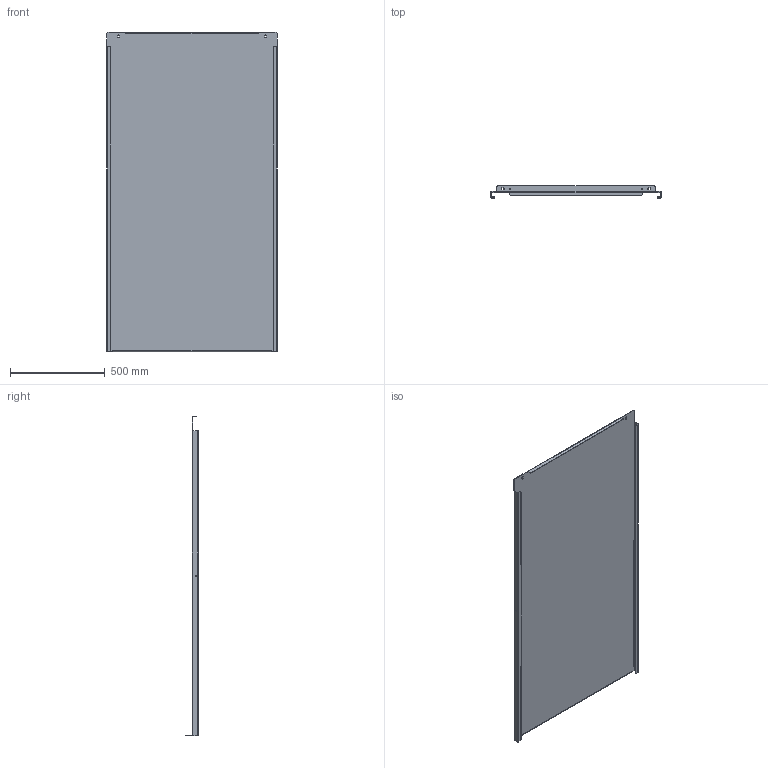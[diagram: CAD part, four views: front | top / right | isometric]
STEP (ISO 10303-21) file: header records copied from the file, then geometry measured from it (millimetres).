
FILE_DESCRIPTION((''),'2;1');
FILE_NAME('MODEL-101_ASM','2014-07-28T',('joelb'),('SAGINAW CONTROL & ENGINEERING'),'PRO/ENGINEER BY PARAMETRIC TECHNOLOGY CORPORATION, 2012070','PRO/ENGINEER BY PARAMETRIC TECHNOLOGY CORPORATION, 2012070','');
FILE_SCHEMA(('AUTOMOTIVE_DESIGN { 1 0 10303 214 1 1 1 1 }'));
Length unit declared in the file: inch
Products named in the file (3): MODEL-101-SUBPANEL; 108623; MODEL-101_ASM
Assembly tree (2 placements, depth 2):
  MODEL-101_ASM
    MODEL-101-SUBPANEL
    108623
Bounding box: 900 x 63.5 x 1687.5 mm (x, y, z)
Volume: 4500622.1 mm3; surface area: 3422536 mm2
Topology: 1 solids, 1 shells, 108 faces, 270 edges, 164 vertices
Faces by surface type: plane 58, cylinder 38, bspline 12
Entity records: 4422 total; most frequent: CARTESIAN_POINT 867, DIRECTION 548, ORIENTED_EDGE 540, PRESENTATION_STYLE_ASSIGNMENT 271, STYLED_ITEM 271, CURVE_STYLE 270, EDGE_CURVE 270, AXIS2_PLACEMENT_3D 185
